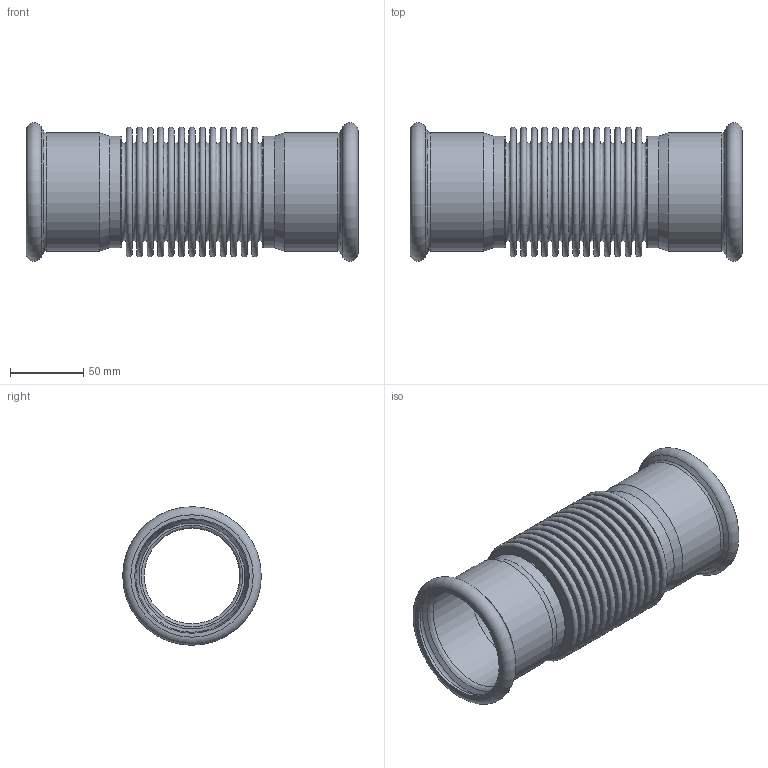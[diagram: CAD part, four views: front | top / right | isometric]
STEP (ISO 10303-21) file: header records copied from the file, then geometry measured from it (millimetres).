
FILE_DESCRIPTION((''),'2;1');
FILE_NAME('G:\Nirosan-Schmiedefeld\Technics\CAD\001 Serie 9.000\076\69872L76H(0).stp','2018-09-11T15:34:34',('herberg'),(''),'Autodesk Inventor 2009','Autodesk Inventor 2009','');
FILE_SCHEMA(('AUTOMOTIVE_DESIGN { 1 0 10303 214 1 1 1 1 }'));
Length unit declared in the file: millimetre
Products named in the file (3): 69872L76H(0); 69488L76P(0); 69HM76P(0)
Assembly tree (3 placements, depth 2):
  69872L76H(0)
    69488L76P(0)
    69HM76P(0)  x2
Bounding box: 226 x 94.29 x 94.29 mm (x, y, z)
Volume: 123606.7 mm3; surface area: 244345.7 mm2
Topology: 3 solids, 3 shells, 144 faces, 228 edges, 146 vertices
Faces by surface type: plane 62, bspline 32, torus 30, cylinder 12, cone 8
Full cylindrical faces by diameter (mm): 72.1 x2, 76.1 x4, 76.6 x2, 78 x2, 80.6 x2
Entity records: 4870 total; most frequent: CARTESIAN_POINT 2718, DIRECTION 464, ORIENTED_EDGE 256, EDGE_LOOP 256, AXIS2_PLACEMENT_3D 232, VERTEX_POINT 128, CIRCLE 128, EDGE_CURVE 128
